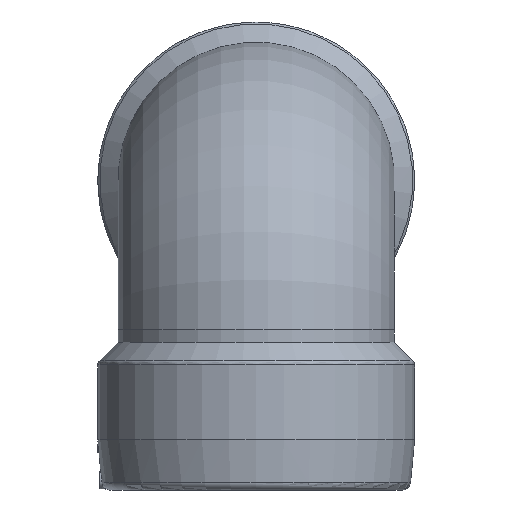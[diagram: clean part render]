
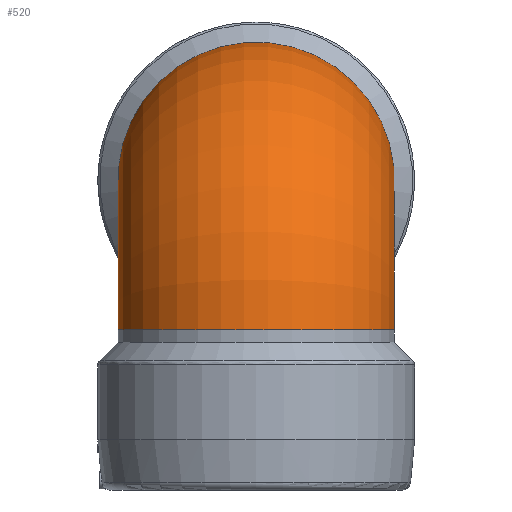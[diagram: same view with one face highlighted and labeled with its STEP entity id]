
A CAD part, left-side view. The second image highlights one B-rep face of the part: STEP entity #520.
In plain terms, the highlighted toroidal (fillet/blend) face has major radius 185 mm and minor radius 171 mm.
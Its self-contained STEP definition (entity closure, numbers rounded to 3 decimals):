
#64=TOROIDAL_SURFACE('',#587,185.,171.);
#79=CIRCLE('',#586,171.);
#80=CIRCLE('',#588,14.95);
#81=CIRCLE('',#589,14.95);
#82=CIRCLE('',#590,171.);
#132=ORIENTED_EDGE('',*,*,#255,.F.);
#133=ORIENTED_EDGE('',*,*,#254,.F.);
#134=ORIENTED_EDGE('',*,*,#256,.T.);
#135=ORIENTED_EDGE('',*,*,#257,.T.);
#254=EDGE_CURVE('',#314,#312,#79,.F.);
#255=EDGE_CURVE('',#312,#315,#80,.F.);
#256=EDGE_CURVE('',#314,#316,#81,.F.);
#257=EDGE_CURVE('',#316,#315,#82,.F.);
#312=VERTEX_POINT('',#952);
#314=VERTEX_POINT('',#956);
#315=VERTEX_POINT('',#960);
#316=VERTEX_POINT('',#962);
#380=EDGE_LOOP('',(#132,#133,#134,#135));
#451=FACE_BOUND('',#380,.T.);
#520=ADVANCED_FACE('',(#451),#64,.T.);
#586=AXIS2_PLACEMENT_3D('',#957,#687,#688);
#587=AXIS2_PLACEMENT_3D('',#958,#689,#690);
#588=AXIS2_PLACEMENT_3D('',#959,#691,#692);
#589=AXIS2_PLACEMENT_3D('',#961,#693,#694);
#590=AXIS2_PLACEMENT_3D('',#963,#695,#696);
#687=DIRECTION('',(-1.,0.,0.));
#688=DIRECTION('',(0.,0.,-1.));
#689=DIRECTION('',(0.,1.,0.));
#690=DIRECTION('',(0.,0.,1.));
#691=DIRECTION('',(0.,1.,0.));
#692=DIRECTION('',(0.,0.,1.));
#693=DIRECTION('',(0.,1.,0.));
#694=DIRECTION('',(0.,0.,1.));
#695=DIRECTION('',(0.,0.,-1.));
#696=DIRECTION('',(1.,0.,0.));
#952=CARTESIAN_POINT('',(185.,-18.,212.95));
#956=CARTESIAN_POINT('',(185.,18.,212.95));
#957=CARTESIAN_POINT('',(185.,0.,383.));
#958=CARTESIAN_POINT('',(185.,0.,198.));
#959=CARTESIAN_POINT('',(185.,-18.,198.));
#960=CARTESIAN_POINT('',(170.05,-18.,198.));
#961=CARTESIAN_POINT('',(185.,18.,198.));
#962=CARTESIAN_POINT('',(170.05,18.,198.));
#963=CARTESIAN_POINT('',(0.,0.,198.));
